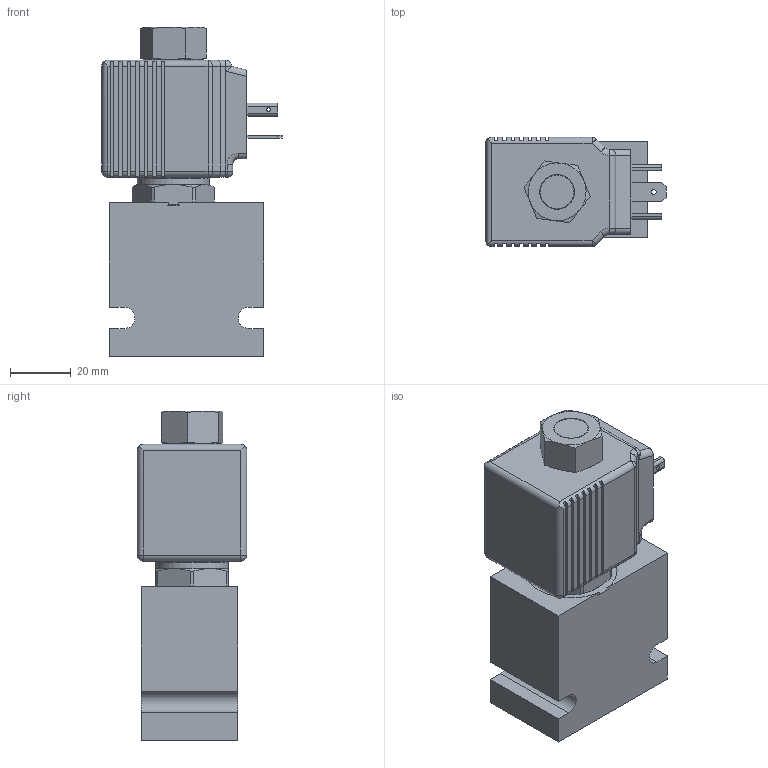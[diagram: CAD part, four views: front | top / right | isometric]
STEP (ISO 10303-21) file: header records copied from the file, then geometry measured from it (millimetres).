
FILE_DESCRIPTION(/* description */ ('Unknown'),/* implementation_level */ '2;1');
FILE_NAME(/* name */ 'T-HBS2L00B2',/* time_stamp */ '2016-02-26T13:24:20+00:00',/* author */ ('Unknown'),/* organization */ ('Unknown'),/* preprocessor_version */ 'ST-DEVELOPER v16.7',/* originating_system */ 'DEX',/* authorisation */ $);
FILE_SCHEMA (('AUTOMOTIVE_DESIGN {1 0 10303 214 3 1 1}'));
Length unit declared in the file: millimetre
Products named in the file (11): T-HBS2L00_M; B-DPBB2; T-JHC-26-O Rings; T-JHC26; PT-OR-2-015-N70A; HBS2L00_M_2; Part2_0; Part4_0; Part6; T-HBS2L BODY; T-HBS2L NUT
Assembly tree (11 placements, depth 3):
  T-HBS2L00_M
    B-DPBB2
    T-JHC-26-O Rings
      T-JHC26
      PT-OR-2-015-N70A  x2
    HBS2L00_M_2
      Part2_0
      Part4_0
      Part6
      T-HBS2L BODY
      T-HBS2L NUT
Bounding box: 59.4 x 36 x 108.55 mm (x, y, z)
Volume: 137498.3 mm3; surface area: 35930.2 mm2
Topology: 9 solids, 9 shells, 582 faces, 1526 edges, 972 vertices
Faces by surface type: plane 392, cylinder 91, cone 58, torus 30, sphere 8, bspline 3
Full cylindrical faces by diameter (mm): 0.2 x2, 1.245 x2, 1.5 x1, 1.666 x1, 5.004 x4, 7.633 x1, 7.785 x1, 9.855 x2, 11 x2, 11.125 x1, 11.151 x1, 12.497 x1, 12.548 x1, 12.649 x2, 12.7 x1, 12.776 x2, 12.979 x1, 13.2 x1, 14 x1, 14.453 x1, 15 x4, 16.866 x2, 17 x2, 17.33 x2, 23.749 x2, 24.2 x2
Entity records: 22102 total; most frequent: CARTESIAN_POINT 5861, ORIENTED_EDGE 2780, DIRECTION 2342, EDGE_CURVE 1390, VERTEX_POINT 945, AXIS2_PLACEMENT_3D 902, FACE_BOUND 727, EDGE_LOOP 725
